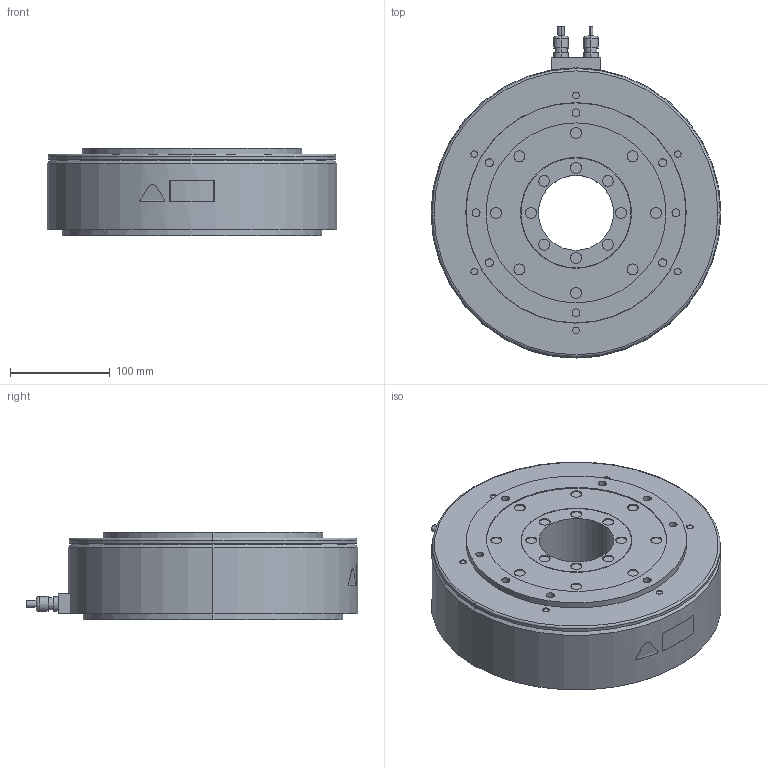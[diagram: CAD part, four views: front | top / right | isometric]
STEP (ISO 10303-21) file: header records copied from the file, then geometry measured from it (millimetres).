
FILE_DESCRIPTION (( 'STEP AP203' ), '1' );
FILE_NAME ('sgm7e_16e_a4_.STEP', '2016-05-30T07:42:53', ( '' ), ( '' ), 'SwSTEP 2.0', 'SolidWorks 2010', '' );
FILE_SCHEMA (( 'CONFIG_CONTROL_DESIGN' ));
Length unit declared in the file: millimetre
Products named in the file (1): sgm7e_16e_a4_
Bounding box: 290 x 332 x 88 mm (x, y, z)
Volume: 5146441.8 mm3; surface area: 236199 mm2
Topology: 1 solids, 1 shells, 234 faces, 480 edges, 316 vertices
Faces by surface type: cylinder 138, plane 81, torus 6, bspline 5, cone 4
Entity records: 6691 total; most frequent: CARTESIAN_POINT 1392, DIRECTION 1220, ORIENTED_EDGE 960, AXIS2_PLACEMENT_3D 526, EDGE_CURVE 480, VERTEX_POINT 316, EDGE_LOOP 304, CIRCLE 296
